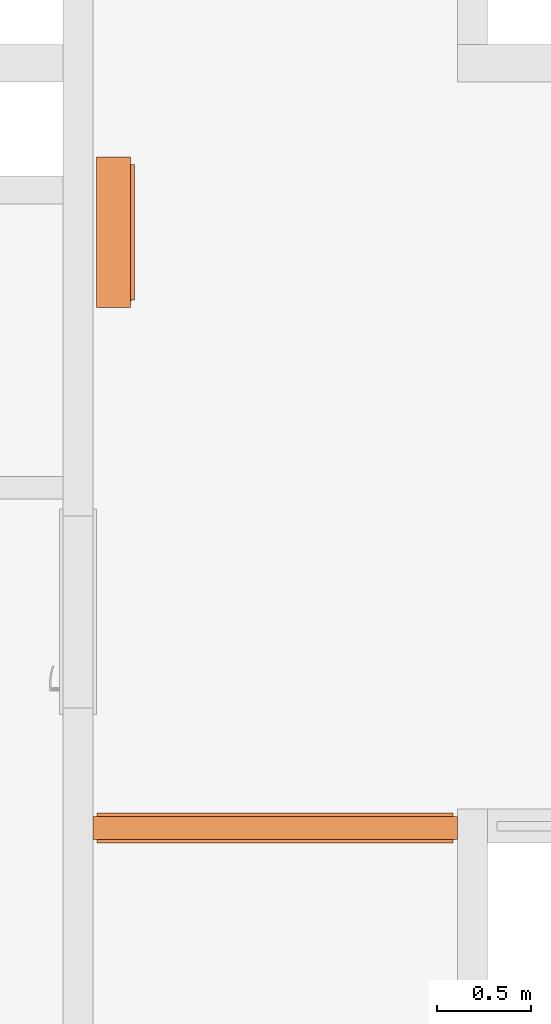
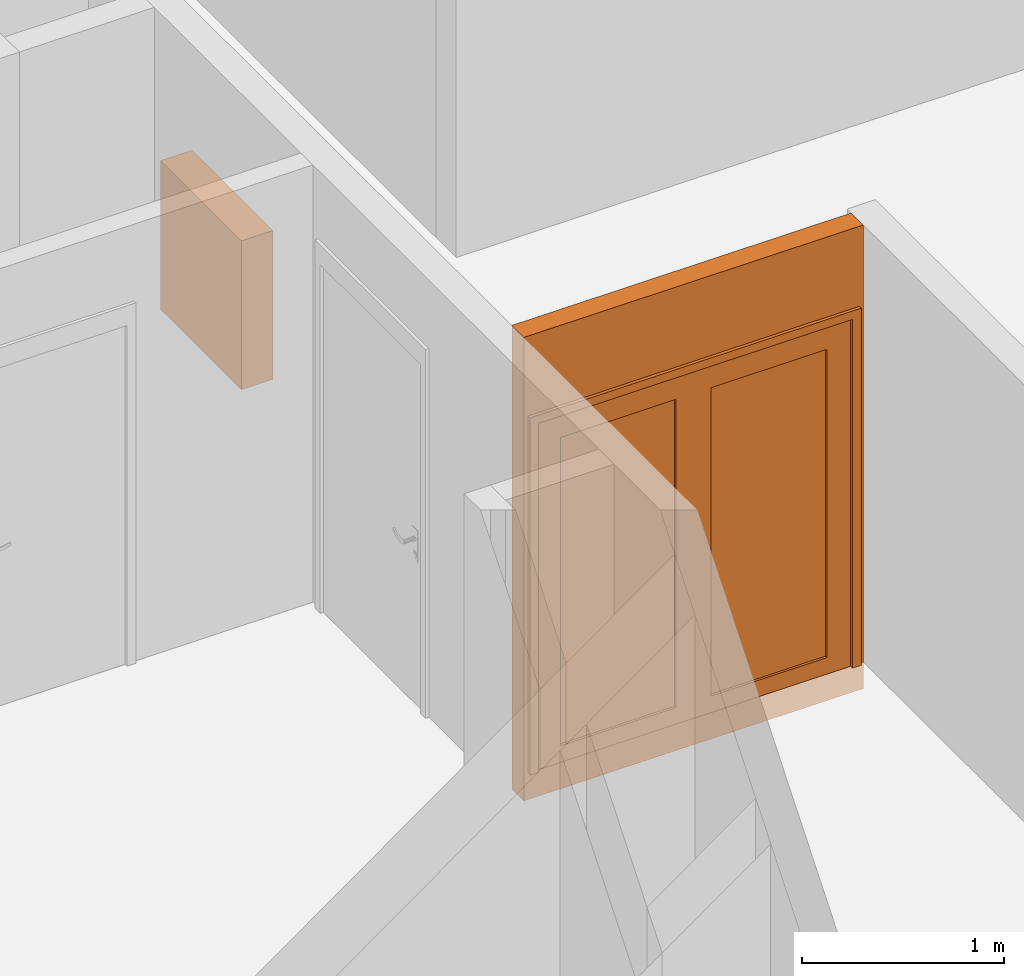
# One storey, part 15 of 66: 3 proxies, 1 opening.
"""IFC2X3 building model written with IfcOpenShell, lengths in millimetres."""

from ifc_helpers import new_model, entity, si_unit, converted_unit, derived_unit, money_unit, direction, frame, origin_with_axes, origin_2d_with_axis, place, context, subcontext, project, spatial, rectangle, extrude, open_shell, faceted_brep, surface_model, source, transform, mapped, material, type_object, element, fill, save


model = new_model("IFC2X3")

# Units and contexts
model_context = context("Model", 3, precision=0.01, world=origin_with_axes(), true_north=direction((0.34421633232, 0.938890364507)))
body_context = subcontext(model_context, "Body", "Model", "MODEL_VIEW")
ifc_project = project(units=[si_unit("LENGTHUNIT", "METRE", prefix="MILLI"), si_unit("AREAUNIT", "SQUARE_METRE"), si_unit("VOLUMEUNIT", "CUBIC_METRE"), converted_unit("PLANEANGLEUNIT", "DEGREE", entity("IfcPlaneAngleMeasure", 0.0174532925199), si_unit("PLANEANGLEUNIT", "RADIAN"), dimensions=[0, 0, 0, 0, 0, 0, 0]), si_unit("SOLIDANGLEUNIT", "STERADIAN"), money_unit("USD"), converted_unit("TIMEUNIT", "Year", entity("IfcTimeMeasure", 31556926.0), si_unit("TIMEUNIT", "SECOND"), dimensions=[0, 0, 1, 0, 0, 0, 0]), si_unit("MASSUNIT", "GRAM", prefix="KILO"), si_unit("THERMODYNAMICTEMPERATUREUNIT", "DEGREE_CELSIUS"), si_unit("LUMINOUSINTENSITYUNIT", "LUMEN"), si_unit("ENERGYUNIT", "JOULE", prefix="MEGA"), derived_unit("THERMALCONDUCTANCEUNIT", [(si_unit("POWERUNIT", "WATT"), 1), (si_unit("LENGTHUNIT", "METRE"), -1), (si_unit("THERMODYNAMICTEMPERATUREUNIT", "KELVIN"), -1)]), derived_unit("SPECIFICHEATCAPACITYUNIT", [(si_unit("ENERGYUNIT", "JOULE"), 1), (si_unit("MASSUNIT", "GRAM", prefix="KILO"), -1), (si_unit("THERMODYNAMICTEMPERATUREUNIT", "KELVIN"), -1)]), derived_unit("MASSDENSITYUNIT", [(si_unit("MASSUNIT", "GRAM", prefix="KILO"), 1), (si_unit("VOLUMEUNIT", "CUBIC_METRE"), -1)])], contexts=[model_context])

# Site, building, storey
site_placement = place(None, origin_with_axes())
site = spatial("IfcSite", under=ifc_project, at=site_placement, Name="USTRONIE MORSKIE", CompositionType="ELEMENT")
building_placement = place(site_placement, origin_with_axes())
building = spatial("IfcBuilding", under=site, at=building_placement, Name="Budynek", CompositionType="ELEMENT")
storey_placement = place(building_placement, frame((0.0, 0.0, 10000.0), z_axis=(0.0, 0.0, 1.0), x_axis=(1.0, 0.0, 0.0)))
storey = spatial("IfcBuildingStorey", under=building, at=storey_placement, Name="PIĘTRO 3", CompositionType="ELEMENT", Elevation=10000.0)

# Proxies, opening
ifc_material = material(Name="Bloczki silikatowe")
building_element_proxy_type_1 = type_object("IfcBuildingElementProxyType", Name="Bloczki silikatowe 120", PredefinedType="NOTDEFINED")
proxy_1_placement = place(storey_placement, frame((357517.920919, 734731.201951, -160.0), z_axis=(0.0, 0.0, 1.0), x_axis=(0.999999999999, -1.3878320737e-06, 0.0)))
proxy_1 = element("IfcBuildingElementProxy", 1, at=proxy_1_placement, inside=storey, type_object=building_element_proxy_type_1, material=ifc_material, Name="SW-04", context=body_context, shape_type="Brep", body=[
    faceted_brep([(2019.99991673, 60.0000000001, 0.0), (2020.00008327, -59.9999999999, 0.0), (80.00008327, -59.9999999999, 0.0), (79.9999167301, 60.0000000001, 0.0), (2019.99991673, 60.0000000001, 2800.0), (2020.00008327, -59.9999999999, 2800.0), (80.00008327, -59.9999999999, 2800.0), (79.9999167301, 60.0000000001, 2800.0)], [[[0, 1, 2, 3]], [[1, 0, 4, 5]], [[1, 5, 6, 2]], [[7, 3, 2, 6]], [[4, 0, 3, 7]], [[5, 4, 7, 6]]]),
])
opening_placement = place(proxy_1_placement, frame((1050.00012795, -1.13686837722e-10, 160.0), z_axis=(0.0, 0.0, 1.0), x_axis=(1.0, 0.0, 0.0)))
opening = element("IfcOpeningElement", 2, at=opening_placement, cuts=proxy_1, Name="Dw.5", context=body_context, shape_type="SweptSolid", body=[
    extrude(rectangle(XDim=1820.0, YDim=2120.0, at=origin_2d_with_axis()), frame((0.0, 120.0, 1060.0), z_axis=(0.0, 1.0, 0.0), x_axis=(1.0, 0.0, 0.0)), (0.0, 0.0, -1.0), 360.0),
    extrude(rectangle(XDim=1894.0, YDim=2157.0, at=origin_2d_with_axis()), frame((0.0, 60.0000000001, 1078.5), z_axis=(0.0, 1.0, 0.0), x_axis=(1.0, 0.0, 0.0)), (0.0, 0.0, 1.0), 120.0),
    extrude(rectangle(XDim=1894.0, YDim=2157.0, at=origin_2d_with_axis()), frame((0.0, -59.9999999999, 1078.5), z_axis=(0.0, -1.0, 0.0), x_axis=(1.0, 0.0, 0.0)), (0.0, 0.0, 1.0), 120.0),
])
building_element_proxy_type_2 = type_object("IfcBuildingElementProxyType", Name="Drzwi podwójne 23", PredefinedType="NOTDEFINED")
shared_shape_1 = source(origin_with_axes(), body_context, "Body", "SurfaceModel", [
    faceted_brep([(910.0, -115.0, 0.0), (910.0, -120.0, 0.0), (885.0, -120.0, 0.0), (885.0, -115.0, 0.0), (910.0, -115.0, 2120.0), (910.0, -120.0, 2120.0), (885.0, -120.0, 2095.0), (885.0, -115.0, 2095.0)], [[[0, 1, 2, 3]], [[4, 5, 1, 0]], [[1, 5, 6, 2]], [[3, 2, 6, 7]], [[0, 3, 7, 4]], [[7, 6, 5, 4]]]),
    faceted_brep([(-910.0, -115.0, 2120.0), (-910.0, -120.0, 2120.0), (-885.0, -120.0, 2095.0), (-885.0, -115.0, 2095.0), (-910.0, -115.0, 0.0), (-910.0, -120.0, 0.0), (-885.0, -120.0, 0.0), (-885.0, -115.0, 0.0)], [[[0, 1, 2, 3]], [[4, 5, 1, 0]], [[1, 5, 6, 2]], [[3, 2, 6, 7]], [[0, 3, 7, 4]], [[7, 6, 5, 4]]]),
    faceted_brep([(885.0, -115.0, 2095.0), (885.0, -120.0, 2095.0), (-885.0, -120.0, 2095.0), (-885.0, -115.0, 2095.0), (910.0, -115.0, 2120.0), (910.0, -120.0, 2120.0), (-910.0, -120.0, 2120.0), (-910.0, -115.0, 2120.0)], [[[0, 1, 2, 3]], [[4, 5, 1, 0]], [[1, 5, 6, 2]], [[3, 2, 6, 7]], [[0, 3, 7, 4]], [[7, 6, 5, 4]]]),
    faceted_brep([(947.0, -139.0, 0.0), (897.0, -139.0, 0.0), (897.0, -120.0, 0.0), (947.0, -120.0, 0.0), (947.0, -139.0, 2157.0), (897.0, -139.0, 2107.0), (897.0, -120.0, 2107.0), (947.0, -120.0, 2157.0)], [[[0, 1, 2, 3]], [[0, 4, 5, 1]], [[1, 5, 6, 2]], [[3, 2, 6, 7]], [[4, 0, 3, 7]], [[5, 4, 7, 6]]]),
    faceted_brep([(-947.0, -139.0, 2157.0), (-897.0, -139.0, 2107.0), (-897.0, -120.0, 2107.0), (-947.0, -120.0, 2157.0), (-947.0, -139.0, 0.0), (-897.0, -139.0, 0.0), (-897.0, -120.0, 0.0), (-947.0, -120.0, 0.0)], [[[0, 1, 2, 3]], [[0, 4, 5, 1]], [[1, 5, 6, 2]], [[3, 2, 6, 7]], [[4, 0, 3, 7]], [[5, 4, 7, 6]]]),
    faceted_brep([(947.0, -139.0, 2157.0), (897.0, -139.0, 2107.0), (897.0, -120.0, 2107.0), (947.0, -120.0, 2157.0), (-947.0, -139.0, 2157.0), (-897.0, -139.0, 2107.0), (-897.0, -120.0, 2107.0), (-947.0, -120.0, 2157.0)], [[[0, 1, 2, 3]], [[0, 4, 5, 1]], [[1, 5, 6, 2]], [[3, 2, 6, 7]], [[4, 0, 3, 7]], [[5, 4, 7, 6]]]),
    faceted_brep([(947.0, 19.0, 0.0), (947.0, 0.0, 0.0), (897.0, 0.0, 0.0), (897.0, 19.0, 0.0), (947.0, 19.0, 2157.0), (947.0, 0.0, 2157.0), (897.0, 0.0, 2107.0), (897.0, 19.0, 2107.0)], [[[0, 1, 2, 3]], [[4, 5, 1, 0]], [[1, 5, 6, 2]], [[3, 2, 6, 7]], [[0, 3, 7, 4]], [[7, 6, 5, 4]]]),
    faceted_brep([(-947.0, 19.0, 2157.0), (-947.0, 0.0, 2157.0), (-897.0, 0.0, 2107.0), (-897.0, 19.0, 2107.0), (-947.0, 19.0, 0.0), (-947.0, 0.0, 0.0), (-897.0, 0.0, 0.0), (-897.0, 19.0, 0.0)], [[[0, 1, 2, 3]], [[4, 5, 1, 0]], [[1, 5, 6, 2]], [[3, 2, 6, 7]], [[0, 3, 7, 4]], [[7, 6, 5, 4]]]),
    faceted_brep([(947.0, 19.0, 2157.0), (947.0, 0.0, 2157.0), (897.0, 0.0, 2107.0), (897.0, 19.0, 2107.0), (-947.0, 19.0, 2157.0), (-947.0, 0.0, 2157.0), (-897.0, 0.0, 2107.0), (-897.0, 19.0, 2107.0)], [[[0, 1, 2, 3]], [[4, 5, 1, 0]], [[1, 5, 6, 2]], [[3, 2, 6, 7]], [[0, 3, 7, 4]], [[7, 6, 5, 4]]]),
    faceted_brep([(850.0, -40.0, 0.0), (850.0, -115.0, 0.0), (850.0, -115.0, 2050.0), (850.0, -40.0, 2050.0), (862.0, -40.0, 0.0), (862.0, 0.0, 0.0), (910.0, 0.0, 0.0), (910.0, -115.0, 0.0), (910.0, -115.0, 2050.0), (862.0, -40.0, 2050.0), (910.0, 0.0, 2050.0), (862.0, 0.0, 2050.0)], [[[0, 1, 2, 3]], [[4, 5, 6, 7, 1, 0]], [[1, 7, 8, 2]], [[9, 3, 2, 8, 10, 11]], [[9, 4, 0, 3]], [[11, 5, 4, 9]], [[11, 10, 6, 5]], [[6, 10, 8, 7]]]),
    faceted_brep([(-862.0, -40.0, 2050.0), (-862.0, 0.0, 2050.0), (-910.0, 0.0, 2050.0), (-910.0, -115.0, 2050.0), (-850.0, -115.0, 2050.0), (-850.0, -40.0, 2050.0), (-862.0, -40.0, 0.0), (-862.0, 0.0, 0.0), (-910.0, 0.0, 0.0), (-910.0, -115.0, 0.0), (-850.0, -115.0, 0.0), (-850.0, -40.0, 0.0)], [[[0, 1, 2, 3, 4, 5]], [[0, 6, 7, 1]], [[7, 8, 2, 1]], [[2, 8, 9, 3]], [[3, 9, 10, 4]], [[5, 4, 10, 11]], [[5, 11, 6, 0]], [[6, 11, 10, 9, 8, 7]]]),
    faceted_brep([(862.0, 0.0, 2062.0), (-862.0, 0.0, 2062.0), (-862.0, 0.0, 2050.0), (-910.0, 0.0, 2050.0), (-910.0, 0.0, 2120.0), (910.0, 0.0, 2120.0), (910.0, 0.0, 2050.0), (862.0, 0.0, 2050.0), (862.0, -40.0, 2062.0), (-862.0, -40.0, 2062.0), (-862.0, -40.0, 2050.0), (-850.0, -40.0, 2050.0), (-850.0, -115.0, 2050.0), (-910.0, -115.0, 2050.0), (-910.0, -115.0, 2120.0), (910.0, -115.0, 2120.0), (910.0, -115.0, 2050.0), (862.0, -40.0, 2050.0), (850.0, -115.0, 2050.0), (850.0, -40.0, 2050.0)], [[[0, 1, 2, 3, 4, 5, 6, 7]], [[0, 8, 9, 1]], [[1, 9, 10, 2]], [[10, 11, 12, 13, 3, 2]], [[4, 3, 13, 14]], [[5, 4, 14, 15]], [[6, 5, 15, 16]], [[17, 7, 6, 16, 18, 19]], [[7, 17, 8, 0]], [[10, 9, 8, 17, 19, 11]], [[19, 18, 12, 11]], [[12, 18, 16, 15, 14, 13]]]),
    faceted_brep([(-862.0, 0.0, 100.0), (-762.0, 0.0, 100.0), (-762.0, -40.0, 100.0), (-862.0, -40.0, 100.0), (-862.0, 0.0, 1962.0), (-762.0, 0.0, 1962.0), (-762.0, -40.0, 1962.0), (-862.0, -40.0, 1962.0)], [[[0, 1, 2, 3]], [[0, 4, 5, 1]], [[1, 5, 6, 2]], [[3, 2, 6, 7]], [[4, 0, 3, 7]], [[5, 4, 7, 6]]]),
    faceted_brep([(0.0, 0.0, 100.0), (0.0, 0.0, 1962.0), (0.0, -40.0, 1962.0), (0.0, -40.0, 100.0), (-100.0, 0.0, 100.0), (-100.0, 0.0, 1962.0), (-100.0, -40.0, 1962.0), (-100.0, -40.0, 100.0)], [[[0, 1, 2, 3]], [[0, 4, 5, 1]], [[1, 5, 6, 2]], [[3, 2, 6, 7]], [[4, 0, 3, 7]], [[5, 4, 7, 6]]]),
    faceted_brep([(-862.0, 0.0, 0.0), (0.0, 0.0, 0.0), (0.0, -40.0, 0.0), (-862.0, -40.0, 0.0), (-862.0, 0.0, 100.0), (-762.0, 0.0, 100.0), (-100.0, 0.0, 100.0), (0.0, 0.0, 100.0), (0.0, -40.0, 100.0), (-100.0, -40.0, 100.0), (-762.0, -40.0, 100.0), (-862.0, -40.0, 100.0)], [[[0, 1, 2, 3]], [[0, 4, 5, 6, 7, 1]], [[1, 7, 8, 2]], [[3, 2, 8, 9, 10, 11]], [[4, 0, 3, 11]], [[5, 4, 11, 10]], [[6, 5, 10, 9]], [[7, 6, 9, 8]]]),
    faceted_brep([(-862.0, 0.0, 2062.0), (-862.0, 0.0, 1962.0), (-862.0, -40.0, 1962.0), (-862.0, -40.0, 2062.0), (0.0, 0.0, 2062.0), (0.0, 0.0, 1962.0), (-100.0, 0.0, 1962.0), (-762.0, 0.0, 1962.0), (-762.0, -40.0, 1962.0), (-100.0, -40.0, 1962.0), (0.0, -40.0, 1962.0), (0.0, -40.0, 2062.0)], [[[0, 1, 2, 3]], [[0, 4, 5, 6, 7, 1]], [[1, 7, 8, 2]], [[3, 2, 8, 9, 10, 11]], [[4, 0, 3, 11]], [[5, 4, 11, 10]], [[6, 5, 10, 9]], [[7, 6, 9, 8]]]),
    surface_model("IfcShellBasedSurfaceModel", [(-762.0, -14.0, 100.0), (-762.0, -14.0, 1962.0), (-100.0, -14.0, 1962.0), (-100.0, -14.0, 100.0)], [open_shell([[[0, 1, 2, 3]]])]),
    surface_model("IfcShellBasedSurfaceModel", [(-762.0, -26.0, 100.0), (-100.0, -26.0, 100.0), (-100.0, -26.0, 1962.0), (-762.0, -26.0, 1962.0)], [open_shell([[[0, 1, 2, 3]]])]),
    faceted_brep([(862.0, 0.0, 100.0), (862.0, -40.0, 100.0), (762.0, -40.0, 100.0), (762.0, 0.0, 100.0), (862.0, 0.0, 1962.0), (862.0, -40.0, 1962.0), (762.0, -40.0, 1962.0), (762.0, 0.0, 1962.0)], [[[0, 1, 2, 3]], [[4, 5, 1, 0]], [[1, 5, 6, 2]], [[3, 2, 6, 7]], [[0, 3, 7, 4]], [[7, 6, 5, 4]]]),
    faceted_brep([(0.0, 0.0, 100.0), (0.0, -40.0, 100.0), (0.0, -40.0, 1962.0), (0.0, 0.0, 1962.0), (100.0, 0.0, 100.0), (100.0, -40.0, 100.0), (100.0, -40.0, 1962.0), (100.0, 0.0, 1962.0)], [[[0, 1, 2, 3]], [[4, 5, 1, 0]], [[1, 5, 6, 2]], [[3, 2, 6, 7]], [[0, 3, 7, 4]], [[7, 6, 5, 4]]]),
    faceted_brep([(862.0, 0.0, 0.0), (862.0, -40.0, 0.0), (0.0, -40.0, 0.0), (0.0, 0.0, 0.0), (862.0, 0.0, 100.0), (862.0, -40.0, 100.0), (762.0, -40.0, 100.0), (100.0, -40.0, 100.0), (0.0, -40.0, 100.0), (0.0, 0.0, 100.0), (100.0, 0.0, 100.0), (762.0, 0.0, 100.0)], [[[0, 1, 2, 3]], [[4, 5, 1, 0]], [[1, 5, 6, 7, 8, 2]], [[3, 2, 8, 9]], [[0, 3, 9, 10, 11, 4]], [[11, 6, 5, 4]], [[10, 7, 6, 11]], [[9, 8, 7, 10]]]),
    faceted_brep([(862.0, 0.0, 2062.0), (862.0, -40.0, 2062.0), (862.0, -40.0, 1962.0), (862.0, 0.0, 1962.0), (0.0, 0.0, 2062.0), (0.0, -40.0, 2062.0), (0.0, -40.0, 1962.0), (100.0, -40.0, 1962.0), (762.0, -40.0, 1962.0), (762.0, 0.0, 1962.0), (100.0, 0.0, 1962.0), (0.0, 0.0, 1962.0)], [[[0, 1, 2, 3]], [[4, 5, 1, 0]], [[1, 5, 6, 7, 8, 2]], [[3, 2, 8, 9]], [[0, 3, 9, 10, 11, 4]], [[11, 6, 5, 4]], [[10, 7, 6, 11]], [[9, 8, 7, 10]]]),
    surface_model("IfcShellBasedSurfaceModel", [(762.0, -14.0, 100.0), (100.0, -14.0, 100.0), (100.0, -14.0, 1962.0), (762.0, -14.0, 1962.0)], [open_shell([[[0, 1, 2, 3]]])]),
    surface_model("IfcShellBasedSurfaceModel", [(762.0, -26.0, 100.0), (762.0, -26.0, 1962.0), (100.0, -26.0, 1962.0), (100.0, -26.0, 100.0)], [open_shell([[[0, 1, 2, 3]]])]),
])
proxy_2_placement = place(opening_placement, frame((850.0, 1.13686837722e-10, 0.0), z_axis=(0.0, 0.0, 1.0), x_axis=(-1.0, 0.0, 0.0)))
proxy_2 = element("IfcBuildingElementProxy", 3, at=proxy_2_placement, inside=storey, type_object=building_element_proxy_type_2, Name="Dw.5", context=body_context, shape_type="MappedRepresentation", body=[
    mapped(shared_shape_1, transform((850.0, 59.9999999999, 0.0))),
])
fill(opening, proxy_2)

# Proxy
building_element_proxy_type_3 = type_object("IfcBuildingElementProxyType", Name="Skrzynka P-Poż 23", PredefinedType="NOTDEFINED")
shared_shape_2 = source(origin_with_axes(), body_context, "Body", "Brep", [
    faceted_brep([(0.0, 40.0, 0.0), (800.0, 40.0, 0.0), (800.0, 20.0, 0.0), (0.0, 20.0, 0.0), (0.0, 40.0, 900.0), (800.0, 40.0, 900.0), (60.0, 40.0, 60.0), (740.0, 40.0, 60.0), (740.0, 40.0, 840.0), (60.0, 40.0, 840.0), (800.0, 20.0, 900.0), (0.0, 20.0, 900.0), (60.0, 20.0, 60.0), (60.0, 20.0, 840.0), (740.0, 20.0, 840.0), (740.0, 20.0, 60.0)], [[[0, 1, 2, 3]], [[0, 4, 5, 1], [6, 7, 8, 9]], [[1, 5, 10, 2]], [[3, 2, 10, 11], [12, 13, 14, 15]], [[4, 0, 3, 11]], [[5, 4, 11, 10]], [[7, 6, 12, 15]], [[8, 7, 15, 14]], [[9, 8, 14, 13]], [[6, 9, 13, 12]]]),
    faceted_brep([(40.0, 20.0, 40.0), (760.0, 20.0, 40.0), (760.0, 0.0, 40.0), (40.0, 0.0, 40.0), (40.0, 20.0, 860.0), (760.0, 20.0, 860.0), (80.0, 20.0, 80.0), (720.0, 20.0, 80.0), (720.0, 20.0, 820.0), (80.0, 20.0, 820.0), (760.0, 0.0, 860.0), (40.0, 0.0, 860.0), (80.0, 0.0, 80.0), (80.0, 0.0, 820.0), (720.0, 0.0, 820.0), (720.0, 0.0, 80.0)], [[[0, 1, 2, 3]], [[0, 4, 5, 1], [6, 7, 8, 9]], [[1, 5, 10, 2]], [[3, 2, 10, 11], [12, 13, 14, 15]], [[4, 0, 3, 11]], [[5, 4, 11, 10]], [[7, 6, 12, 15]], [[8, 7, 15, 14]], [[9, 8, 14, 13]], [[6, 9, 13, 12]]]),
    faceted_brep([(0.0, 180.0, 0.0), (800.0, 180.0, 0.0), (800.0, 40.0, 0.0), (0.0, 40.0, 0.0), (0.0, 180.0, 900.0), (800.0, 180.0, 900.0), (20.0, 180.0, 20.0), (780.0, 180.0, 20.0), (780.0, 180.0, 880.0), (20.0, 180.0, 880.0), (800.0, 40.0, 900.0), (0.0, 40.0, 900.0), (20.0, 40.0, 20.0), (20.0, 40.0, 880.0), (780.0, 40.0, 880.0), (780.0, 40.0, 20.0)], [[[0, 1, 2, 3]], [[0, 4, 5, 1], [6, 7, 8, 9]], [[1, 5, 10, 2]], [[3, 2, 10, 11], [12, 13, 14, 15]], [[4, 0, 3, 11]], [[5, 4, 11, 10]], [[7, 6, 12, 15]], [[8, 7, 15, 14]], [[9, 8, 14, 13]], [[6, 9, 13, 12]]]),
    faceted_brep([(0.0, 200.0, 0.0), (800.0, 200.0, 0.0), (800.0, 180.0, 0.0), (0.0, 180.0, 0.0), (0.0, 200.0, 900.0), (800.0, 200.0, 900.0), (800.0, 180.0, 900.0), (0.0, 180.0, 900.0)], [[[0, 1, 2, 3]], [[0, 4, 5, 1]], [[1, 5, 6, 2]], [[3, 2, 6, 7]], [[4, 0, 3, 7]], [[5, 4, 7, 6]]]),
    faceted_brep([(80.0, 15.0, 80.0), (720.0, 15.0, 80.0), (720.0, 5.0, 80.0), (80.0, 5.0, 80.0), (80.0, 15.0, 820.0), (720.0, 15.0, 820.0), (720.0, 5.0, 820.0), (80.0, 5.0, 820.0)], [[[0, 1, 2, 3]], [[0, 4, 5, 1]], [[1, 5, 6, 2]], [[3, 2, 6, 7]], [[4, 0, 3, 7]], [[5, 4, 7, 6]]]),
    faceted_brep([(749.659258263, 0.0, 447.411809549), (748.660254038, 0.0, 445.0), (747.071067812, 0.0, 442.928932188), (745.0, 0.0, 441.339745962), (742.588190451, 0.0, 440.340741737), (740.0, 0.0, 440.0), (737.411809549, 0.0, 440.340741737), (735.0, 0.0, 441.339745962), (732.928932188, 0.0, 442.928932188), (731.339745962, 0.0, 445.0), (730.340741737, 0.0, 447.411809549), (730.0, 0.0, 450.0), (730.340741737, 0.0, 452.588190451), (731.339745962, 0.0, 455.0), (732.928932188, 0.0, 457.071067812), (735.0, 0.0, 458.660254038), (737.411809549, 0.0, 459.659258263), (740.0, 0.0, 460.0), (742.588190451, 0.0, 459.659258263), (745.0, 0.0, 458.660254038), (747.071067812, 0.0, 457.071067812), (748.660254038, 0.0, 455.0), (749.659258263, 0.0, 452.588190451), (750.0, 0.0, 450.0), (749.659258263, -2.0, 447.411809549), (748.660254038, -2.0, 445.0), (747.071067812, -2.0, 442.928932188), (745.0, -2.0, 441.339745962), (742.588190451, -2.0, 440.340741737), (740.0, -2.0, 440.0), (737.411809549, -2.0, 440.340741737), (735.0, -2.0, 441.339745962), (732.928932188, -2.0, 442.928932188), (731.339745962, -2.0, 445.0), (730.340741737, -2.0, 447.411809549), (730.0, -2.0, 450.0), (730.340741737, -2.0, 452.588190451), (731.339745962, -2.0, 455.0), (732.928932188, -2.0, 457.071067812), (735.0, -2.0, 458.660254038), (737.411809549, -2.0, 459.659258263), (740.0, -2.0, 460.0), (742.588190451, -2.0, 459.659258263), (745.0, -2.0, 458.660254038), (747.071067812, -2.0, 457.071067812), (748.660254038, -2.0, 455.0), (749.659258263, -2.0, 452.588190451), (750.0, -2.0, 450.0)], [[[0, 1, 2, 3, 4, 5, 6, 7, 8, 9, 10, 11, 12, 13, 14, 15, 16, 17, 18, 19, 20, 21, 22, 23]], [[1, 0, 24, 25]], [[2, 1, 25, 26]], [[3, 2, 26, 27]], [[4, 3, 27, 28]], [[5, 4, 28, 29]], [[6, 5, 29, 30]], [[7, 6, 30, 31]], [[8, 7, 31, 32]], [[9, 8, 32, 33]], [[10, 9, 33, 34]], [[11, 10, 34, 35]], [[12, 11, 35, 36]], [[13, 12, 36, 37]], [[14, 13, 37, 38]], [[15, 14, 38, 39]], [[16, 15, 39, 40]], [[17, 16, 40, 41]], [[18, 17, 41, 42]], [[19, 18, 42, 43]], [[20, 19, 43, 44]], [[21, 20, 44, 45]], [[22, 21, 45, 46]], [[23, 22, 46, 47]], [[0, 23, 47, 24]], [[24, 47, 46, 45, 44, 43, 42, 41, 40, 39, 38, 37, 36, 35, 34, 33, 32, 31, 30, 29, 28, 27, 26, 25]]]),
    faceted_brep([(39.8977774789, 16.2235428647, 80.0), (39.5980762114, 15.5, 80.0), (39.1213203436, 14.8786796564, 80.0), (38.5, 14.4019237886, 80.0), (37.7764571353, 14.1022225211, 80.0), (37.0, 14.0, 80.0), (36.2235428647, 14.1022225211, 80.0), (35.5, 14.4019237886, 80.0), (34.8786796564, 14.8786796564, 80.0), (34.4019237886, 15.5, 80.0), (34.1022225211, 16.2235428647, 80.0), (34.0, 17.0, 80.0), (34.1022225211, 17.7764571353, 80.0), (34.4019237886, 18.5, 80.0), (34.8786796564, 19.1213203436, 80.0), (35.5, 19.5980762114, 80.0), (36.2235428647, 19.8977774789, 80.0), (37.0, 20.0, 80.0), (37.7764571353, 19.8977774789, 80.0), (38.5, 19.5980762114, 80.0), (39.1213203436, 19.1213203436, 80.0), (39.5980762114, 18.5, 80.0), (39.8977774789, 17.7764571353, 80.0), (40.0, 17.0, 80.0), (39.8977774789, 16.2235428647, 120.0), (39.5980762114, 15.5, 120.0), (39.1213203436, 14.8786796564, 120.0), (38.5, 14.4019237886, 120.0), (37.7764571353, 14.1022225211, 120.0), (37.0, 14.0, 120.0), (36.2235428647, 14.1022225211, 120.0), (35.5, 14.4019237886, 120.0), (34.8786796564, 14.8786796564, 120.0), (34.4019237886, 15.5, 120.0), (34.1022225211, 16.2235428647, 120.0), (34.0, 17.0, 120.0), (34.1022225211, 17.7764571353, 120.0), (34.4019237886, 18.5, 120.0), (34.8786796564, 19.1213203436, 120.0), (35.5, 19.5980762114, 120.0), (36.2235428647, 19.8977774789, 120.0), (37.0, 20.0, 120.0), (37.7764571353, 19.8977774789, 120.0), (38.5, 19.5980762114, 120.0), (39.1213203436, 19.1213203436, 120.0), (39.5980762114, 18.5, 120.0), (39.8977774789, 17.7764571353, 120.0), (40.0, 17.0, 120.0)], [[[0, 1, 2, 3, 4, 5, 6, 7, 8, 9, 10, 11, 12, 13, 14, 15, 16, 17, 18, 19, 20, 21, 22, 23]], [[1, 0, 24, 25]], [[2, 1, 25, 26]], [[3, 2, 26, 27]], [[4, 3, 27, 28]], [[5, 4, 28, 29]], [[6, 5, 29, 30]], [[7, 6, 30, 31]], [[8, 7, 31, 32]], [[9, 8, 32, 33]], [[10, 9, 33, 34]], [[11, 10, 34, 35]], [[12, 11, 35, 36]], [[13, 12, 36, 37]], [[14, 13, 37, 38]], [[15, 14, 38, 39]], [[16, 15, 39, 40]], [[17, 16, 40, 41]], [[18, 17, 41, 42]], [[19, 18, 42, 43]], [[20, 19, 43, 44]], [[21, 20, 44, 45]], [[22, 21, 45, 46]], [[23, 22, 46, 47]], [[0, 23, 47, 24]], [[24, 47, 46, 45, 44, 43, 42, 41, 40, 39, 38, 37, 36, 35, 34, 33, 32, 31, 30, 29, 28, 27, 26, 25]]]),
    faceted_brep([(39.8977774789, 16.2235428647, 780.0), (39.5980762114, 15.5, 780.0), (39.1213203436, 14.8786796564, 780.0), (38.5, 14.4019237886, 780.0), (37.7764571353, 14.1022225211, 780.0), (37.0, 14.0, 780.0), (36.2235428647, 14.1022225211, 780.0), (35.5, 14.4019237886, 780.0), (34.8786796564, 14.8786796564, 780.0), (34.4019237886, 15.5, 780.0), (34.1022225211, 16.2235428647, 780.0), (34.0, 17.0, 780.0), (34.1022225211, 17.7764571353, 780.0), (34.4019237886, 18.5, 780.0), (34.8786796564, 19.1213203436, 780.0), (35.5, 19.5980762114, 780.0), (36.2235428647, 19.8977774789, 780.0), (37.0, 20.0, 780.0), (37.7764571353, 19.8977774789, 780.0), (38.5, 19.5980762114, 780.0), (39.1213203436, 19.1213203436, 780.0), (39.5980762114, 18.5, 780.0), (39.8977774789, 17.7764571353, 780.0), (40.0, 17.0, 780.0), (39.8977774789, 16.2235428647, 820.0), (39.5980762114, 15.5, 820.0), (39.1213203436, 14.8786796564, 820.0), (38.5, 14.4019237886, 820.0), (37.7764571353, 14.1022225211, 820.0), (37.0, 14.0, 820.0), (36.2235428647, 14.1022225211, 820.0), (35.5, 14.4019237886, 820.0), (34.8786796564, 14.8786796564, 820.0), (34.4019237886, 15.5, 820.0), (34.1022225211, 16.2235428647, 820.0), (34.0, 17.0, 820.0), (34.1022225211, 17.7764571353, 820.0), (34.4019237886, 18.5, 820.0), (34.8786796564, 19.1213203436, 820.0), (35.5, 19.5980762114, 820.0), (36.2235428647, 19.8977774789, 820.0), (37.0, 20.0, 820.0), (37.7764571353, 19.8977774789, 820.0), (38.5, 19.5980762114, 820.0), (39.1213203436, 19.1213203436, 820.0), (39.5980762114, 18.5, 820.0), (39.8977774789, 17.7764571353, 820.0), (40.0, 17.0, 820.0)], [[[0, 1, 2, 3, 4, 5, 6, 7, 8, 9, 10, 11, 12, 13, 14, 15, 16, 17, 18, 19, 20, 21, 22, 23]], [[1, 0, 24, 25]], [[2, 1, 25, 26]], [[3, 2, 26, 27]], [[4, 3, 27, 28]], [[5, 4, 28, 29]], [[6, 5, 29, 30]], [[7, 6, 30, 31]], [[8, 7, 31, 32]], [[9, 8, 32, 33]], [[10, 9, 33, 34]], [[11, 10, 34, 35]], [[12, 11, 35, 36]], [[13, 12, 36, 37]], [[14, 13, 37, 38]], [[15, 14, 38, 39]], [[16, 15, 39, 40]], [[17, 16, 40, 41]], [[18, 17, 41, 42]], [[19, 18, 42, 43]], [[20, 19, 43, 44]], [[21, 20, 44, 45]], [[22, 21, 45, 46]], [[23, 22, 46, 47]], [[0, 23, 47, 24]], [[24, 47, 46, 45, 44, 43, 42, 41, 40, 39, 38, 37, 36, 35, 34, 33, 32, 31, 30, 29, 28, 27, 26, 25]]]),
])
proxy_3_placement = place(storey_placement, frame((357817.920919, 737501.1917, 600.0), z_axis=(0.0, 0.0, 1.0), x_axis=(0.0, 1.0, 0.0)))
element("IfcBuildingElementProxy", 4, at=proxy_3_placement, inside=storey, type_object=building_element_proxy_type_3, Name="OB3", context=body_context, shape_type="MappedRepresentation", body=[
    mapped(shared_shape_2, transform((0.0, 0.0, 0.0))),
])

save(model, "model.ifc")
